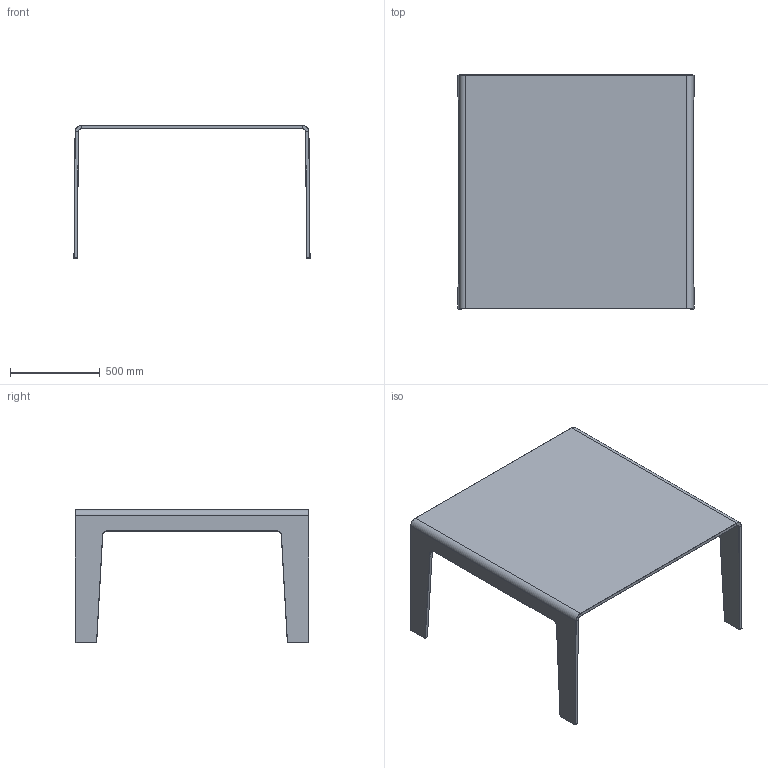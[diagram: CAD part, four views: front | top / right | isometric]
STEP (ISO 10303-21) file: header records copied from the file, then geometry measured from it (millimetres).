
FILE_DESCRIPTION((''),'2;1');
FILE_NAME('C:\AutodeskVault\AreaLavoro\Progetti\SoVeT Italia\1. Tavoli_Dining tables\Frog\Web file\Frog Web\P1520.stp','2012-05-09T10:04:08',('Gianluca'),('So.Ve.T. s.r.l.'),'Autodesk Inventor 2011','Autodesk Inventor 2011','IL PROGETTO E'' DI ESCLUSIVA PROPRIETA'' DELLA SO.VE.T. srl. E'' VIETATA OGNI RIPRODUZIONE TOTALE O PARZIALE E QUALSIASI UTILIZZO NON AUTORIZZATO.');
FILE_SCHEMA(('AUTOMOTIVE_DESIGN { 1 0 10303 214 1 1 1 1 }'));
Length unit declared in the file: millimetre
Products named in the file (1): P1520 Contorno semplificato
Bounding box: 1312.71 x 1300 x 740.06 mm (x, y, z)
Volume: 43046702.5 mm3; surface area: 4716508.8 mm2
Topology: 1 solids, 1 shells, 106 faces, 232 edges, 128 vertices
Faces by surface type: plane 58, cone 32, cylinder 16
Entity records: 2939 total; most frequent: DIRECTION 510, CARTESIAN_POINT 467, ORIENTED_EDGE 464, EDGE_CURVE 232, AXIS2_PLACEMENT_3D 171, VECTOR 168, LINE 168, VERTEX_POINT 128
